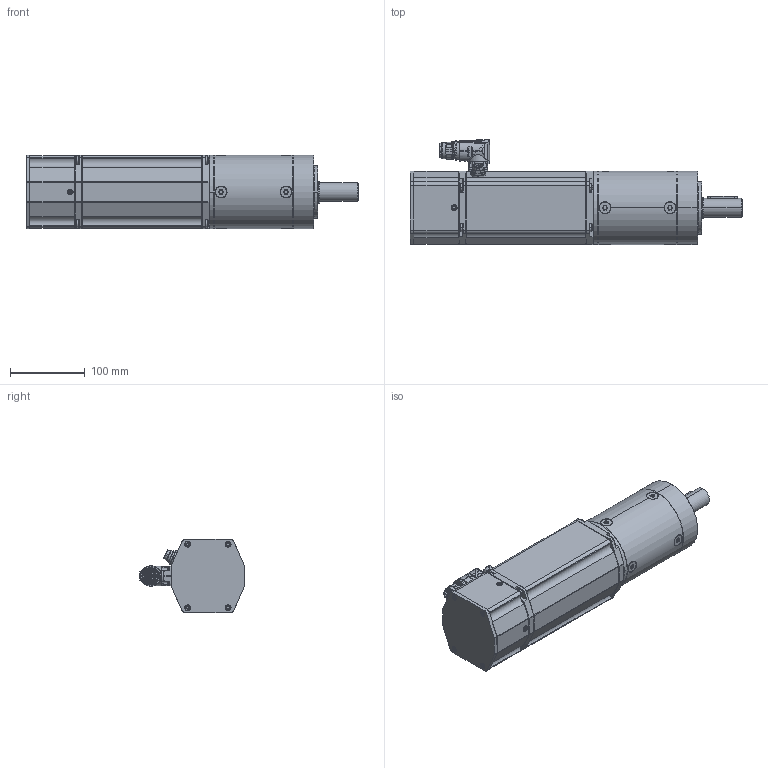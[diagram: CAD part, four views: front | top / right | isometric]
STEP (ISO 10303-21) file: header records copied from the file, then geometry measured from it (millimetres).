
FILE_DESCRIPTION((''),'2;1');
FILE_NAME('9659503031_SW0002','2018-10-04T',('HMeister'),(''),'CREO PARAMETRIC BY PTC INC, 2016050','CREO PARAMETRIC BY PTC INC, 2016050','');
FILE_SCHEMA(('CONFIG_CONTROL_DESIGN'));
Products named in the file (1): 9659503031_SW0002
Bounding box: 443.45 x 140.3 x 98 mm (x, y, z)
Volume: 1453379.8 mm3; surface area: 367395.3 mm2
Topology: 3 solids, 8 shells, 3443 faces, 8782 edges, 5482 vertices
Faces by surface type: cylinder 1110, plane 770, bspline 680, cone 442, torus 405, sphere 36
Entity records: 135310 total; most frequent: CARTESIAN_POINT 56380, ORIENTED_EDGE 17436, DIRECTION 15571, EDGE_CURVE 8718, AXIS2_PLACEMENT_3D 6439, VERTEX_POINT 5479, CIRCLE 3676, EDGE_LOOP 3669
